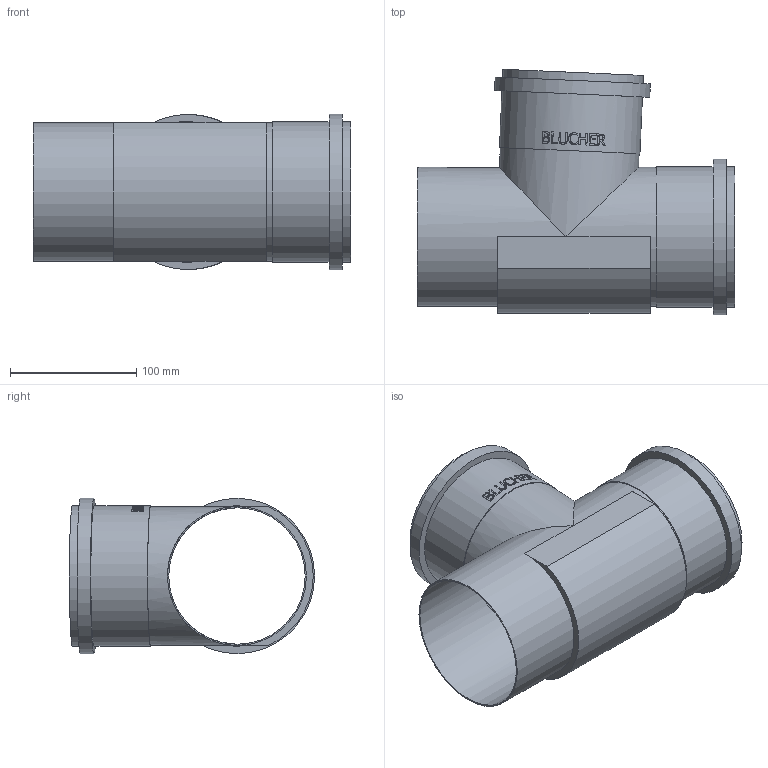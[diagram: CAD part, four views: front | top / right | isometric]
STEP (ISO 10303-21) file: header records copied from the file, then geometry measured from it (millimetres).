
FILE_DESCRIPTION((''),'2;1');
FILE_NAME('I:\WATTS\3D_CAD\3D_CAD_Models\Blucher_Drains\Fittings\Access Fittings\WebsiteFiles\3D\STEP\AT-4x4-316.stp','2009-12-22T09:03:51',('menesek'),(''),'Autodesk Inventor 2010','Autodesk Inventor 2010','');
FILE_SCHEMA(('AUTOMOTIVE_DESIGN { 1 0 10303 214 1 1 1 1 }'));
Length unit declared in the file: inch
Products named in the file (1): AT-4x4-316
Bounding box: 250.89 x 194.07 x 122.94 mm (x, y, z)
Volume: 276684.4 mm3; surface area: 228734 mm2
Topology: 1 solids, 1 shells, 141 faces, 369 edges, 246 vertices
Faces by surface type: plane 72, bspline 47, cylinder 22
Full cylindrical faces by diameter (mm): 107.95 x2, 109.982 x3, 111.252 x4, 122.936 x2
Entity records: 17034 total; most frequent: CARTESIAN_POINT 13950, ORIENTED_EDGE 708, DIRECTION 463, EDGE_CURVE 354, VERTEX_POINT 242, EDGE_LOOP 172, AXIS2_PLACEMENT_3D 158, VECTOR 147
